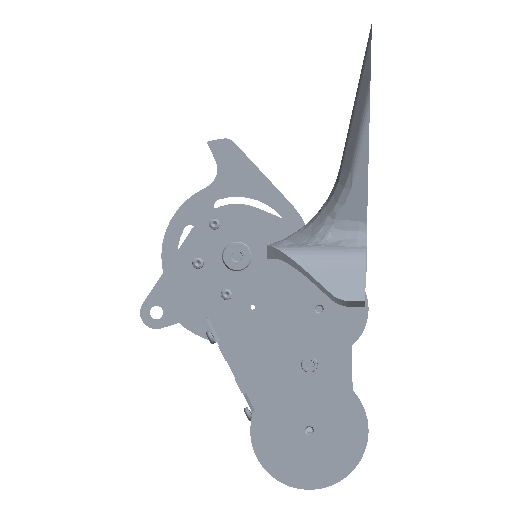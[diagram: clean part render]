
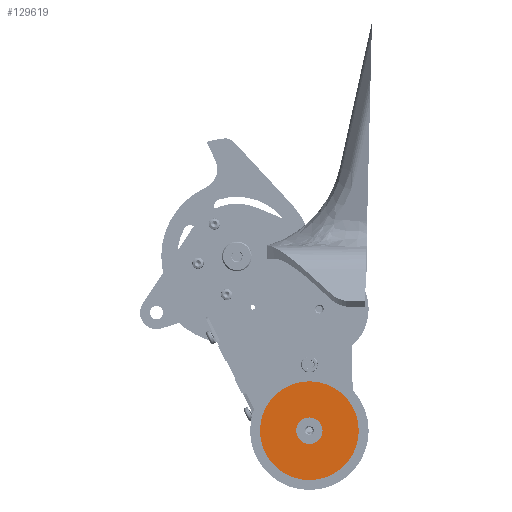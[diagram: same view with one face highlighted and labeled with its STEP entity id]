
A CAD part, left-side view. The second image highlights one B-rep face of the part: STEP entity #129619.
In plain terms, the highlighted planar face has unit normal (-1, 0, 0).
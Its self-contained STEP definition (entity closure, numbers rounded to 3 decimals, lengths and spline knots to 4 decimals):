
#4870=FACE_BOUND('',#29976,.T.);
#5349=PLANE('',#136973);
#21214=FACE_OUTER_BOUND('',#29975,.T.);
#29975=EDGE_LOOP('',(#94786));
#29976=EDGE_LOOP('',(#94787));
#36636=CIRCLE('',#136970,0.25);
#36638=CIRCLE('',#136974,0.9375);
#53952=VERTEX_POINT('',#237321);
#53954=VERTEX_POINT('',#237328);
#68622=EDGE_CURVE('',#53952,#53952,#36636,.T.);
#68624=EDGE_CURVE('',#53954,#53954,#36638,.T.);
#94786=ORIENTED_EDGE('',*,*,#68624,.F.);
#94787=ORIENTED_EDGE('',*,*,#68622,.T.);
#129619=ADVANCED_FACE('',(#21214,#4870),#5349,.F.);
#136970=AXIS2_PLACEMENT_3D('',#237323,#146033,#146034);
#136973=AXIS2_PLACEMENT_3D('',#237327,#146039,#146040);
#136974=AXIS2_PLACEMENT_3D('',#237329,#146041,#146042);
#146033=DIRECTION('center_axis',(1.,0.,0.));
#146034=DIRECTION('ref_axis',(0.,0.,-1.));
#146039=DIRECTION('center_axis',(1.,0.,0.));
#146040=DIRECTION('ref_axis',(0.,0.,-1.));
#146041=DIRECTION('center_axis',(1.,0.,0.));
#146042=DIRECTION('ref_axis',(0.,0.,1.));
#237321=CARTESIAN_POINT('',(0.,0.,0.25));
#237323=CARTESIAN_POINT('Origin',(0.,0.,0.));
#237327=CARTESIAN_POINT('Origin',(0.,0.,0.));
#237328=CARTESIAN_POINT('',(0.,0.,-0.9375));
#237329=CARTESIAN_POINT('Origin',(0.,0.,0.));
